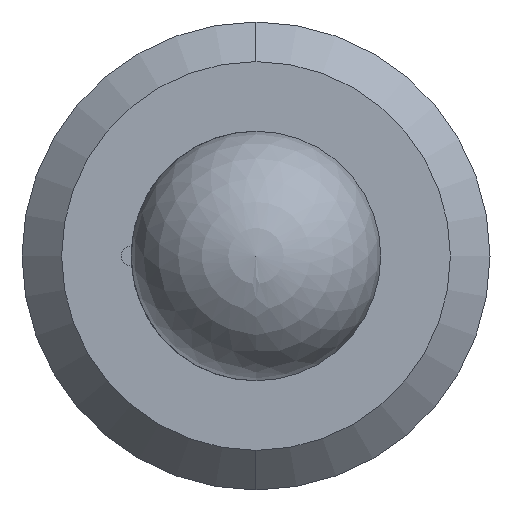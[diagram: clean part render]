
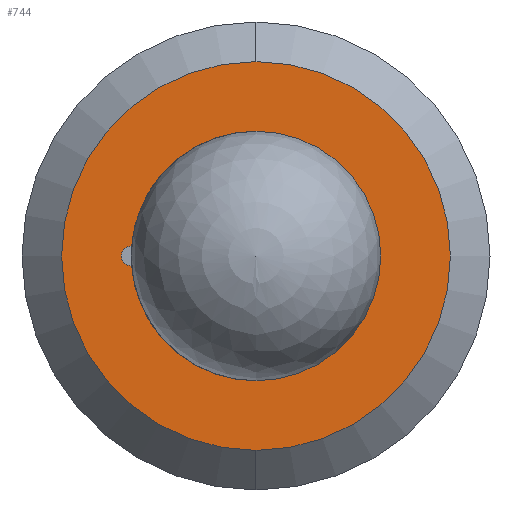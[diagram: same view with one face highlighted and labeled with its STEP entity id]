
A CAD part, left-side view. The second image highlights one B-rep face of the part: STEP entity #744.
In plain terms, the highlighted planar face has unit normal (-1, 0, 0).
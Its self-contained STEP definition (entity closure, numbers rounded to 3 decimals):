
#6 = CIRCLE ( 'NONE', #558, 1.246 ) ;
#27 = ORIENTED_EDGE ( 'NONE', *, *, #132, .F. ) ;
#42 = CARTESIAN_POINT ( 'NONE',  ( 0., 0.8, 0. ) ) ;
#64 = CIRCLE ( 'NONE', #689, 0.8 ) ;
#72 = VERTEX_POINT ( 'NONE', #732 ) ;
#79 = CARTESIAN_POINT ( 'NONE',  ( 0., 0., 0. ) ) ;
#87 = CARTESIAN_POINT ( 'NONE',  ( 0., 0., 0. ) ) ;
#93 = VERTEX_POINT ( 'NONE', #665 ) ;
#107 = DIRECTION ( 'NONE',  ( 0., 0., 1. ) ) ;
#124 = CIRCLE ( 'NONE', #373, 0.8 ) ;
#127 = DIRECTION ( 'NONE',  ( -1., 0., 0. ) ) ;
#129 = CIRCLE ( 'NONE', #699, 0.064 ) ;
#132 = EDGE_CURVE ( 'NONE', #338, #310, #129, .T. ) ;
#142 = DIRECTION ( 'NONE',  ( 0., 0., 1. ) ) ;
#148 = DIRECTION ( 'NONE',  ( 0., 0., -1. ) ) ;
#172 = DIRECTION ( 'NONE',  ( -1., 0., 0. ) ) ;
#175 = AXIS2_PLACEMENT_3D ( 'NONE', #512, #220, #611 ) ;
#179 = EDGE_CURVE ( 'NONE', #519, #338, #398, .T. ) ;
#182 = ORIENTED_EDGE ( 'NONE', *, *, #244, .T. ) ;
#183 = EDGE_CURVE ( 'NONE', #343, #368, #64, .T. ) ;
#197 = EDGE_CURVE ( 'NONE', #368, #93, #531, .T. ) ;
#206 = VERTEX_POINT ( 'NONE', #551 ) ;
#220 = DIRECTION ( 'NONE',  ( 1., 0., 0. ) ) ;
#236 = DIRECTION ( 'NONE',  ( -1., 0., 0. ) ) ;
#244 = EDGE_CURVE ( 'NONE', #206, #72, #6, .T. ) ;
#255 = CARTESIAN_POINT ( 'NONE',  ( 0., 0., 0. ) ) ;
#280 = FACE_BOUND ( 'NONE', #582, .T. ) ;
#294 = CARTESIAN_POINT ( 'NONE',  ( 0., 0.8, 0. ) ) ;
#300 = ORIENTED_EDGE ( 'NONE', *, *, #197, .F. ) ;
#306 = CIRCLE ( 'NONE', #328, 1.246 ) ;
#309 = CARTESIAN_POINT ( 'NONE',  ( 0., 0., 0. ) ) ;
#310 = VERTEX_POINT ( 'NONE', #381 ) ;
#312 = DIRECTION ( 'NONE',  ( 0., 0., -1. ) ) ;
#328 = AXIS2_PLACEMENT_3D ( 'NONE', #255, #644, #312 ) ;
#338 = VERTEX_POINT ( 'NONE', #729 ) ;
#341 = AXIS2_PLACEMENT_3D ( 'NONE', #495, #127, #542 ) ;
#343 = VERTEX_POINT ( 'NONE', #521 ) ;
#368 = VERTEX_POINT ( 'NONE', #652 ) ;
#370 = EDGE_CURVE ( 'NONE', #310, #343, #124, .T. ) ;
#373 = AXIS2_PLACEMENT_3D ( 'NONE', #309, #698, #374 ) ;
#374 = DIRECTION ( 'NONE',  ( 0., 0., 1. ) ) ;
#379 = EDGE_CURVE ( 'NONE', #93, #519, #728, .T. ) ;
#381 = CARTESIAN_POINT ( 'NONE',  ( 0., 0.797, -0.063 ) ) ;
#385 = EDGE_CURVE ( 'NONE', #72, #206, #306, .T. ) ;
#396 = PLANE ( 'NONE',  #175 ) ;
#398 = CIRCLE ( 'NONE', #737, 0.064 ) ;
#434 = ORIENTED_EDGE ( 'NONE', *, *, #183, .F. ) ;
#481 = DIRECTION ( 'NONE',  ( -1., 0., 0. ) ) ;
#495 = CARTESIAN_POINT ( 'NONE',  ( 0., 0.8, 0. ) ) ;
#498 = FACE_OUTER_BOUND ( 'NONE', #502, .T. ) ;
#502 = EDGE_LOOP ( 'NONE', ( #545, #182 ) ) ;
#506 = DIRECTION ( 'NONE',  ( -1., 0., 0. ) ) ;
#510 = DIRECTION ( 'NONE',  ( -1., 0., 0. ) ) ;
#512 = CARTESIAN_POINT ( 'NONE',  ( 0., 0., 0. ) ) ;
#516 = ORIENTED_EDGE ( 'NONE', *, *, #379, .F. ) ;
#518 = ORIENTED_EDGE ( 'NONE', *, *, #370, .F. ) ;
#519 = VERTEX_POINT ( 'NONE', #654 ) ;
#521 = CARTESIAN_POINT ( 'NONE',  ( 0., 0., -0.8 ) ) ;
#531 = CIRCLE ( 'NONE', #595, 0.8 ) ;
#542 = DIRECTION ( 'NONE',  ( 0., 0., 1. ) ) ;
#545 = ORIENTED_EDGE ( 'NONE', *, *, #385, .T. ) ;
#551 = CARTESIAN_POINT ( 'NONE',  ( 0., 0., 1.246 ) ) ;
#558 = AXIS2_PLACEMENT_3D ( 'NONE', #87, #510, #148 ) ;
#573 = CARTESIAN_POINT ( 'NONE',  ( 0., 0., 0. ) ) ;
#582 = EDGE_LOOP ( 'NONE', ( #518, #27, #640, #516, #300, #434 ) ) ;
#595 = AXIS2_PLACEMENT_3D ( 'NONE', #79, #506, #142 ) ;
#611 = DIRECTION ( 'NONE',  ( 0., 0., -1. ) ) ;
#623 = DIRECTION ( 'NONE',  ( 0., 0., 1. ) ) ;
#640 = ORIENTED_EDGE ( 'NONE', *, *, #179, .F. ) ;
#644 = DIRECTION ( 'NONE',  ( -1., 0., 0. ) ) ;
#652 = CARTESIAN_POINT ( 'NONE',  ( 0., 0., 0.8 ) ) ;
#654 = CARTESIAN_POINT ( 'NONE',  ( 0., 0.8, 0.064 ) ) ;
#665 = CARTESIAN_POINT ( 'NONE',  ( 0., 0.797, 0.063 ) ) ;
#672 = DIRECTION ( 'NONE',  ( 0., 0., 1. ) ) ;
#689 = AXIS2_PLACEMENT_3D ( 'NONE', #573, #236, #623 ) ;
#698 = DIRECTION ( 'NONE',  ( -1., 0., 0. ) ) ;
#699 = AXIS2_PLACEMENT_3D ( 'NONE', #294, #172, #672 ) ;
#728 = CIRCLE ( 'NONE', #341, 0.064 ) ;
#729 = CARTESIAN_POINT ( 'NONE',  ( 0., 0.8, -0.064 ) ) ;
#732 = CARTESIAN_POINT ( 'NONE',  ( 0., 0., -1.246 ) ) ;
#737 = AXIS2_PLACEMENT_3D ( 'NONE', #42, #481, #107 ) ;
#744 = ADVANCED_FACE ( 'NONE', ( #280, #498 ), #396, .F. ) ;
